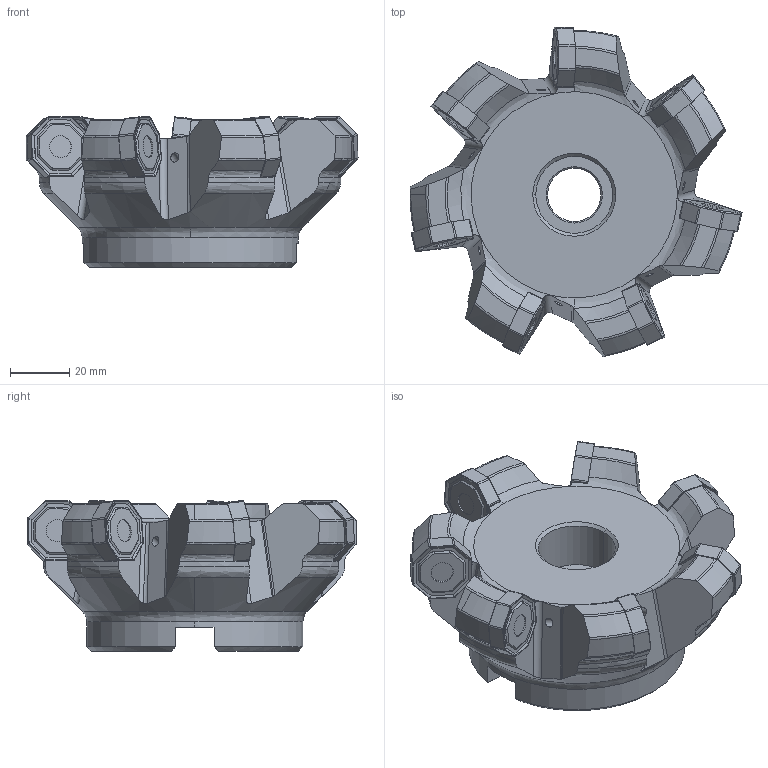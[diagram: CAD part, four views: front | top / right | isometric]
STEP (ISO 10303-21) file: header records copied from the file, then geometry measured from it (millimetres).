
FILE_DESCRIPTION (( 'STEP AP214' ), '1' );
FILE_NAME ('01-0607.STEP', '2022-08-16T22:42:23', ( '' ), ( '' ), 'SwSTEP 2.0', 'SolidWorks 2021', '' );
FILE_SCHEMA (( 'AUTOMOTIVE_DESIGN' ));
Length unit declared in the file: inch
Products named in the file (1): 01-0607
Bounding box: 112.11 x 111.2 x 50.8 mm (x, y, z)
Volume: 233340.4 mm3; surface area: 35634.7 mm2
Topology: 1 solids, 1 shells, 755 faces, 2280 edges, 1453 vertices
Faces by surface type: plane 305, cone 217, cylinder 142, bspline 91
Entity records: 27384 total; most frequent: CARTESIAN_POINT 8509, ORIENTED_EDGE 4380, DIRECTION 3486, EDGE_CURVE 2190, VERTEX_POINT 1453, AXIS2_PLACEMENT_3D 1242, LINE 1002, VECTOR 1002
